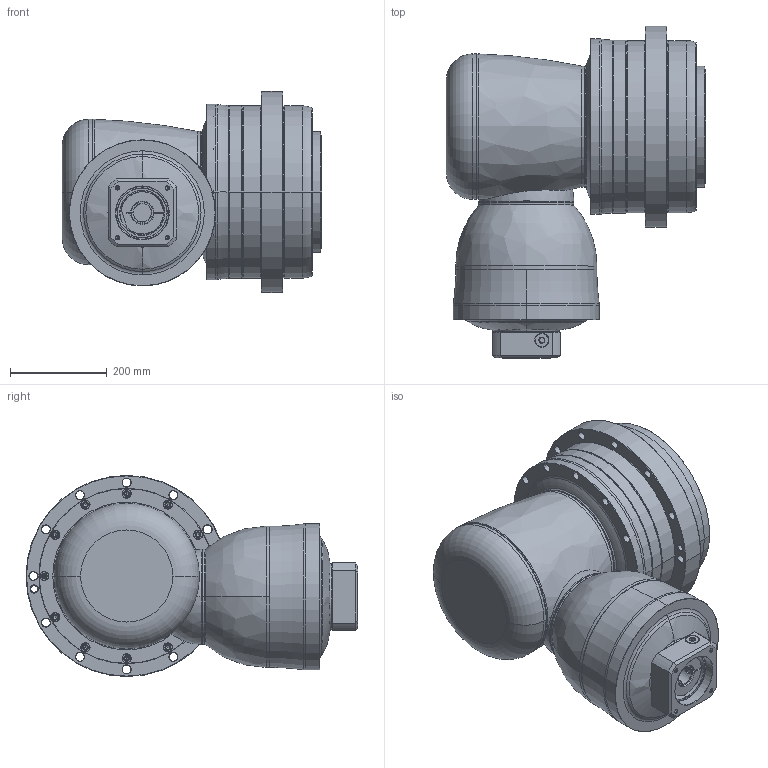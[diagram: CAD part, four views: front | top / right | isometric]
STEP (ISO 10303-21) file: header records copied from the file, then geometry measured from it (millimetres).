
FILE_DESCRIPTION((''),'2;1');
FILE_NAME('AHKB355_3ST_38-P0409900101_ASM','2016-12-09T',('d01943'),(''),'PRO/ENGINEER BY PARAMETRIC TECHNOLOGY CORPORATION, 2008410','PRO/ENGINEER BY PARAMETRIC TECHNOLOGY CORPORATION, 2008410','');
FILE_SCHEMA(('CONFIG_CONTROL_DESIGN'));
Length unit declared in the file: millimetre
Products named in the file (12): P1008800002; P1831100001; P0276100003; P0357100003; P1315800001; P1007800001; P1317800101; P0409900101; P0503900012; P0912701001; 21711422019; AHKB355_3ST_38-P0409900101_ASM
Assembly tree (11 placements, depth 2):
  AHKB355_3ST_38-P0409900101_ASM
    P1008800002
    P1831100001
    P0276100003
    P0357100003
    P1315800001
    P1007800001
    P1317800101
    P0409900101
    P0503900012
    P0912701001
    21711422019
Bounding box: 535 x 684.5 x 415 mm (x, y, z)
Volume: 44174670.3 mm3; surface area: 2418134.4 mm2
Topology: 12 solids, 12 shells, 1051 faces, 2338 edges, 1338 vertices
Faces by surface type: cylinder 379, cone 372, torus 142, plane 130, bspline 26, sphere 2
Entity records: 34065 total; most frequent: CARTESIAN_POINT 10135, DIRECTION 5554, ORIENTED_EDGE 4500, AXIS2_PLACEMENT_3D 2368, EDGE_CURVE 2250, VERTEX_POINT 1338, CIRCLE 1320, EDGE_LOOP 1266
